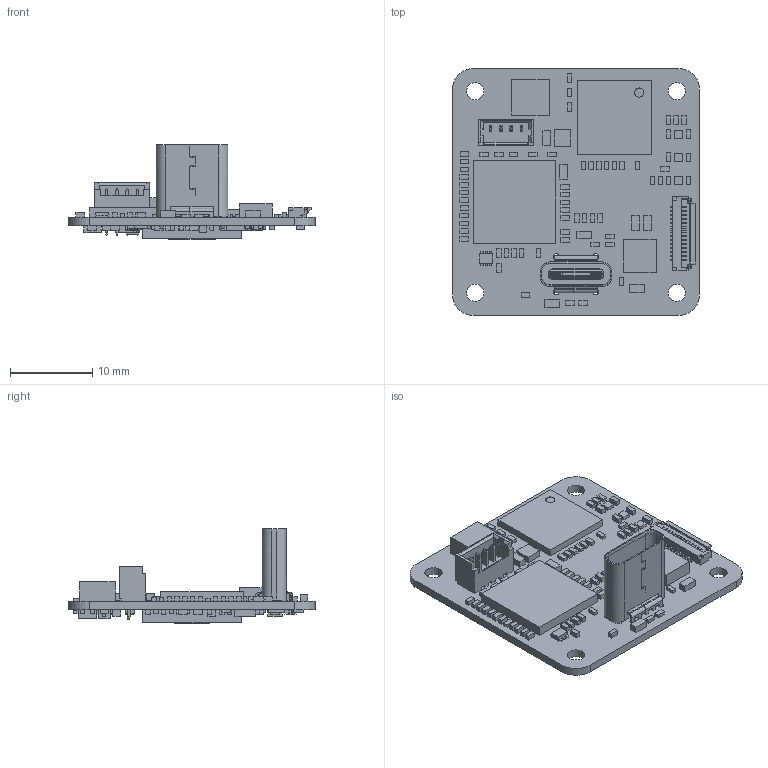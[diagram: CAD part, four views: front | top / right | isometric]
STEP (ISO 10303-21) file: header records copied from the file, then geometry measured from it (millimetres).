
FILE_DESCRIPTION(('Open CASCADE Model'),'2;1');
FILE_NAME('Open CASCADE Shape Model','2024-01-22T12:42:44',('Author'),( 'Open CASCADE'),'Open CASCADE STEP processor 7.6','Open CASCADE 6.8' ,'Unknown');
FILE_SCHEMA(('AUTOMOTIVE_DESIGN_CC2 { 1 2 10303 214 -1 1 5 4 }'));
Length unit declared in the file: millimetre
Products named in the file (380): PCB; SOLID; SHELL; COMPOUND
Assembly tree (379 placements, depth 2):
  PCB
    SOLID
    SOLID
    SOLID
    SOLID
    SOLID
    SOLID
    SOLID
    SOLID
    SOLID
    SOLID
    SOLID
    SOLID
    SOLID
    SOLID
    SOLID
    SOLID
    SOLID
    SOLID
    SOLID
    SOLID
    SOLID
    SOLID
    SOLID
    SOLID
    SOLID
    SOLID
    SOLID
    SOLID
    SOLID
    SOLID
    SOLID
    SOLID
    SOLID
    SOLID
    SOLID
    SOLID
    SOLID
    SOLID
    SOLID
    SOLID
    SOLID
    SOLID
    SOLID
    SOLID
    SOLID
    SOLID
    SOLID
    SOLID
    SOLID
    SOLID
    SOLID
    SOLID
    SOLID
    SOLID
    SOLID
    SOLID
    SOLID
    SOLID
    SOLID
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Bounding box: 30.01 x 30 x 11.43 mm (x, y, z)
Volume: 1688.7 mm3; surface area: 4475 mm2
Topology: 373 solids, 374 shells, 3002 faces, 7539 edges, 4989 vertices
Faces by surface type: plane 2536, cylinder 277, sphere 169, cone 20
Full cylindrical faces by diameter (mm): 0.5 x4, 0.66 x1, 0.7 x4, 1.125 x1, 2.1 x4
Entity records: 97880 total; most frequent: CARTESIAN_POINT 15570, DIRECTION 14314, ORIENTED_EDGE 14033, EDGE_CURVE 7017, LINE 6402, VECTOR 6402, VERTEX_POINT 4790, AXIS2_PLACEMENT_3D 3956
